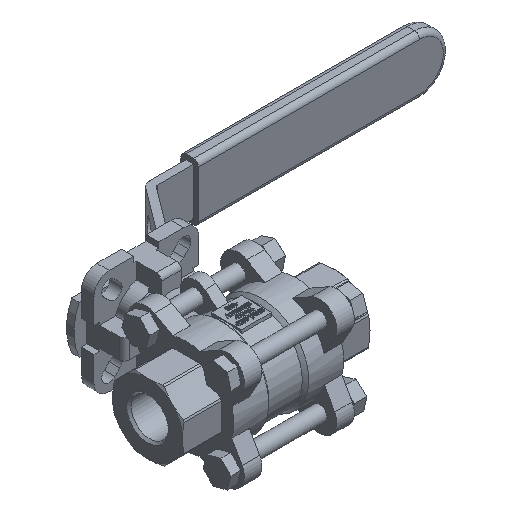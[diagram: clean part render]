
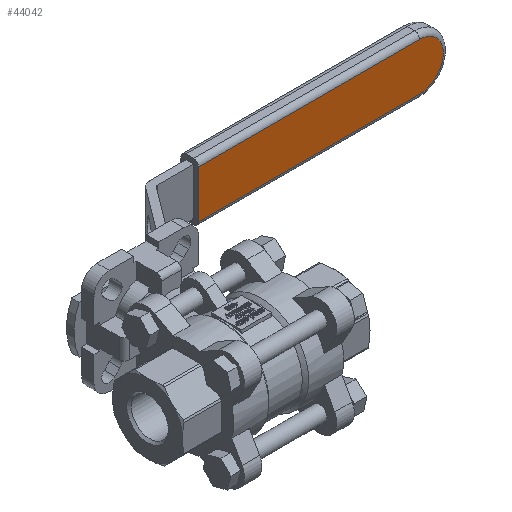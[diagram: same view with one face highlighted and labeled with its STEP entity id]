
A CAD part, isometric view. The second image highlights one B-rep face of the part: STEP entity #44042.
In plain terms, the highlighted planar face has unit normal (0, -1, 0).
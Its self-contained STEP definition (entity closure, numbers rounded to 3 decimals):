
#43925=CARTESIAN_POINT('',(50.335,67.5,9.5));
#43926=VERTEX_POINT('',#43925);
#43934=CARTESIAN_POINT('',(138.835,67.5,9.5));
#43935=VERTEX_POINT('',#43934);
#43936=CARTESIAN_POINT('',(50.335,67.5,9.5));
#43937=DIRECTION('',(1.0,0.0,0.0));
#43938=VECTOR('',#43937,88.5);
#43939=LINE('',#43936,#43938);
#43940=EDGE_CURVE('',#43926,#43935,#43939,.T.);
#43965=CARTESIAN_POINT('',(138.835,67.5,-9.5));
#43966=VERTEX_POINT('',#43965);
#43984=CARTESIAN_POINT('',(138.835,67.5,0.));
#43985=DIRECTION('',(0.0,1.0,0.0));
#43986=DIRECTION('',(1.0,0.0,0.0));
#43987=AXIS2_PLACEMENT_3D('',#43984,#43985,#43986);
#43988=CIRCLE('',#43987,9.5);
#43989=EDGE_CURVE('',#43935,#43966,#43988,.T.);
#43999=CARTESIAN_POINT('',(50.335,67.5,-9.5));
#44000=VERTEX_POINT('',#43999);
#44017=CARTESIAN_POINT('',(138.835,67.5,-9.5));
#44018=DIRECTION('',(-1.0,0.0,0.0));
#44019=VECTOR('',#44018,88.5);
#44020=LINE('',#44017,#44019);
#44021=EDGE_CURVE('',#43966,#44000,#44020,.T.);
#44026=CARTESIAN_POINT('',(50.335,67.5,-11.5));
#44027=DIRECTION('',(0.0,-1.0,0.0));
#44028=DIRECTION('',(0.0,0.0,-1.0));
#44029=AXIS2_PLACEMENT_3D('',#44026,#44027,#44028);
#44030=PLANE('',#44029);
#44031=ORIENTED_EDGE('',*,*,#44021,.F.);
#44032=ORIENTED_EDGE('',*,*,#43989,.F.);
#44033=ORIENTED_EDGE('',*,*,#43940,.F.);
#44034=CARTESIAN_POINT('',(50.335,67.5,-9.5));
#44035=DIRECTION('',(0.0,0.0,1.0));
#44036=VECTOR('',#44035,19.0);
#44037=LINE('',#44034,#44036);
#44038=EDGE_CURVE('',#44000,#43926,#44037,.T.);
#44039=ORIENTED_EDGE('',*,*,#44038,.F.);
#44040=EDGE_LOOP('',(#44031,#44032,#44033,#44039));
#44041=FACE_OUTER_BOUND('',#44040,.T.);
#44042=ADVANCED_FACE('',(#44041),#44030,.T.);
